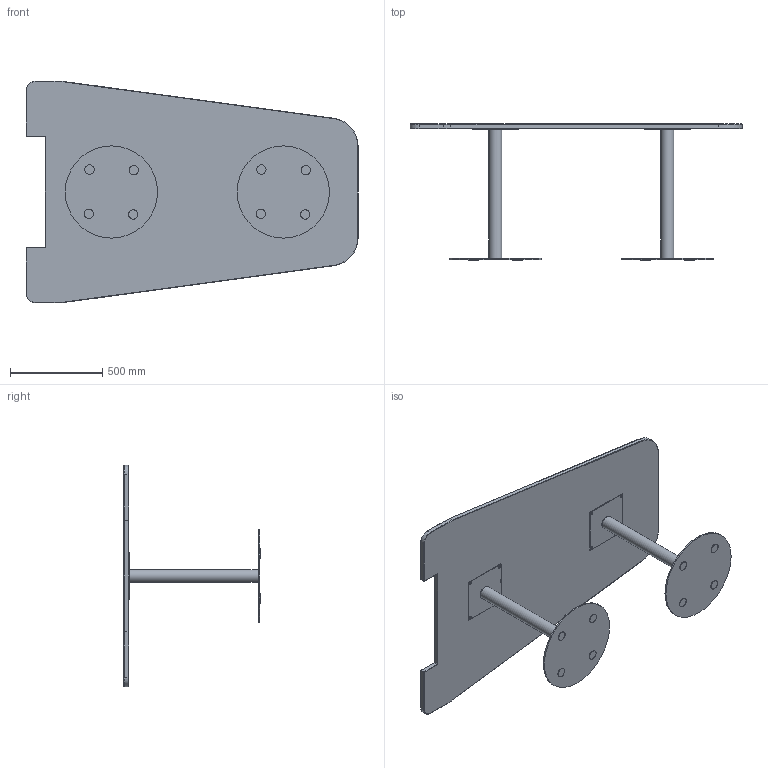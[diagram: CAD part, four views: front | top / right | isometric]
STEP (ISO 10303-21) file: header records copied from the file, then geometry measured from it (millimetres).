
FILE_DESCRIPTION(/* description */ (''),/* implementation_level */ '2;1');
FILE_NAME(/* name */ 'C:\Nextcloud\02_biblioteki_cad\mikomax\STOŁY - PHONE 08.09\EKSPORT\HUS-SW-002\HUS-SW-002.stp',/* time_stamp */ '2022-09-19T15:04:17+02:00',/* author */ ('alane'),/* organization */ (''),/* preprocessor_version */ 'ST-DEVELOPER v18.1',/* originating_system */ 'Autodesk Inventor 2022',/* authorisation */ '');
FILE_SCHEMA (('CONFIG_CONTROL_DESIGN'));
Length unit declared in the file: millimetre
Products named in the file (1): HUS-SW-002
Bounding box: 1799.84 x 738 x 1200 mm (x, y, z)
Volume: 47755454.5 mm3; surface area: 5307378.3 mm2
Topology: 11 solids, 13 shells, 130 faces, 256 edges, 156 vertices
Faces by surface type: cylinder 52, plane 48, torus 18, cone 8, sphere 4
Full cylindrical faces by diameter (mm): 8 x8, 50 x8, 66 x2, 70 x2, 500 x2
Entity records: 3773 total; most frequent: CARTESIAN_POINT 923, DIRECTION 636, ORIENTED_EDGE 512, AXIS2_PLACEMENT_3D 261, EDGE_CURVE 256, VERTEX_POINT 156, EDGE_LOOP 150, FACE_OUTER_BOUND 130
